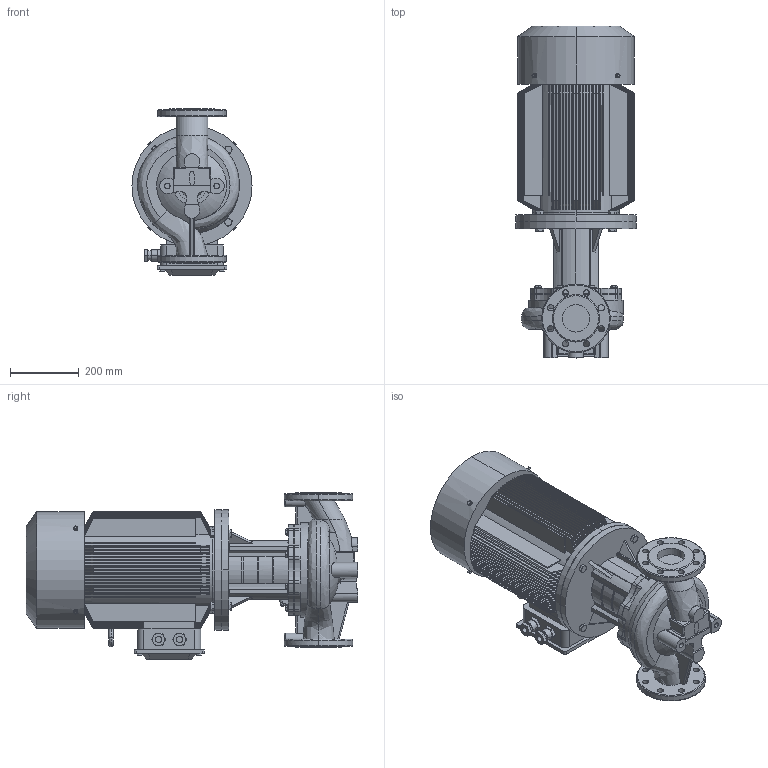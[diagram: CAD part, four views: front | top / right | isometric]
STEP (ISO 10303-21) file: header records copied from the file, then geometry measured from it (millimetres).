
FILE_DESCRIPTION (( 'STEP AP203' ), '1' );
FILE_NAME ('TD80-32 38G／2.STEP', '2026-09-07T02:35:49', ( '' ), ( '' ), 'SwSTEP 2.0', 'SolidWorks 2020', '' );
FILE_SCHEMA (( 'CONFIG_CONTROL_DESIGN' ));
Products named in the file (1): TD80-32 38Gㄞ2
Bounding box: 350 x 967.5 x 485 mm (x, y, z)
Volume: 59996730.5 mm3; surface area: 3924127 mm2
Topology: 1 solids, 9 shells, 1559 faces, 3999 edges, 2530 vertices
Faces by surface type: plane 684, cylinder 405, cone 370, bspline 49, torus 49, sphere 2
Entity records: 68913 total; most frequent: CARTESIAN_POINT 31995, ORIENTED_EDGE 7990, DIRECTION 7375, EDGE_CURVE 3995, AXIS2_PLACEMENT_3D 2903, VERTEX_POINT 2530, EDGE_LOOP 1695, VECTOR 1569
